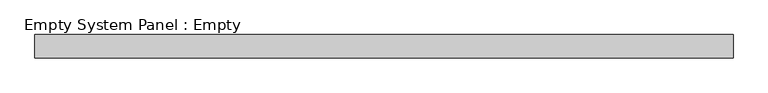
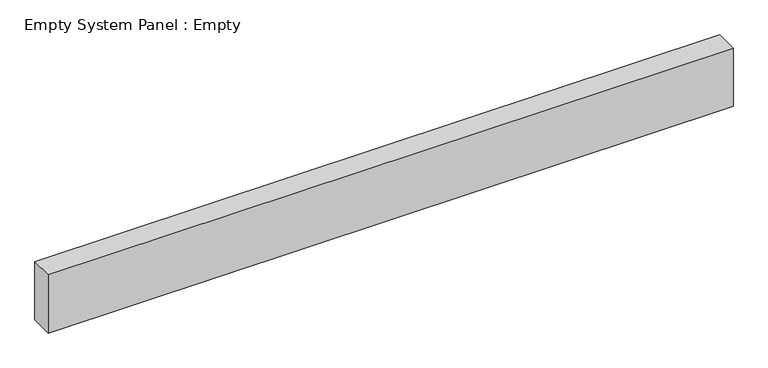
"""IFC4 building model written with IfcOpenShell, lengths in millimetres: plate geometry, Empty System Panel : Empty."""

from ifc_helpers import new_model, si_unit, origin, origin_with_axes, place, context, project, spatial, polyline, outline, extrude, source, transform, mapped, element, save


def empty_system_panel_empty_231ba346(model_context):
    return source(origin(), model_context, "Body", "SweptSolid", [
        extrude(outline(polyline([(1500.0, -50.0), (-1500.0, -50.0), (-1500.0, 50.0), (1500.0, 50.0), (1500.0, -50.0)])), origin_with_axes(), (0.0, 0.0, 1.0), 269.3898269),
    ])


if __name__ == "__main__":
    model = new_model("IFC4")
    model_context = context("Model", 3, world=origin())
    ifc_project = project(units=[si_unit("LENGTHUNIT", "METRE", prefix="MILLI")], contexts=[model_context])
    site = spatial("IfcSite", under=ifc_project)
    building = spatial("IfcBuilding", under=site)
    placement = place(None, origin())
    empty_system_panel_empty_shape = empty_system_panel_empty_231ba346(model_context)
    element("IfcPlate", 1, ObjectType="Empty System Panel : Empty", at=placement, inside=building, context=model_context, shape_type="MappedRepresentation", body=[
        mapped(empty_system_panel_empty_shape, transform((0.0, 0.0, 0.0), x_axis=(1.0, 0.0, 0.0), y_axis=(0.0, 1.0, 0.0), z_axis=(0.0, 0.0, 1.0))),
    ])
    save(model, "model.ifc")
